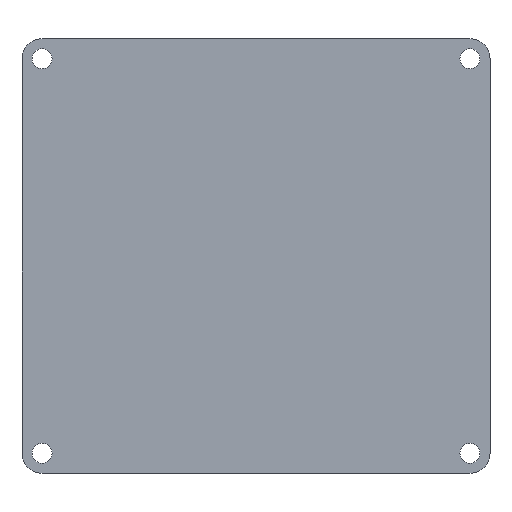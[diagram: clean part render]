
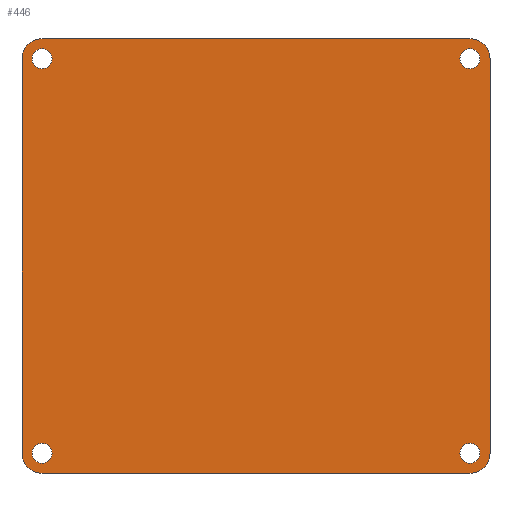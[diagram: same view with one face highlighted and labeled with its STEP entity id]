
A CAD part, top view. The second image highlights one B-rep face of the part: STEP entity #446.
In plain terms, the highlighted planar face has unit normal (0, 0, 1).
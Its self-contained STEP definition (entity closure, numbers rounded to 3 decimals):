
#32=CARTESIAN_POINT('',(69.985,2.978,38.));
#33=VERTEX_POINT('',#32);
#34=CARTESIAN_POINT('',(69.985,61.978,38.));
#35=VERTEX_POINT('',#34);
#36=CARTESIAN_POINT('',(69.985,2.978,38.));
#37=DIRECTION('',(-0.,1.,0.));
#38=VECTOR('',#37,59.);
#39=LINE('',#36,#38);
#40=EDGE_CURVE('',#33,#35,#39,.T.);
#82=CARTESIAN_POINT('',(2.985,64.978,38.));
#83=VERTEX_POINT('',#82);
#90=CARTESIAN_POINT('',(66.985,64.978,38.));
#91=VERTEX_POINT('',#90);
#92=CARTESIAN_POINT('',(66.985,64.978,38.));
#93=DIRECTION('',(-1.,-0.,0.));
#94=VECTOR('',#93,64.);
#95=LINE('',#92,#94);
#96=EDGE_CURVE('',#91,#83,#95,.T.);
#122=CARTESIAN_POINT('',(-0.015,2.978,38.));
#123=VERTEX_POINT('',#122);
#130=CARTESIAN_POINT('',(-0.015,61.978,38.));
#131=VERTEX_POINT('',#130);
#132=CARTESIAN_POINT('',(-0.015,61.978,38.));
#133=DIRECTION('',(-0.,-1.,0.));
#134=VECTOR('',#133,59.);
#135=LINE('',#132,#134);
#136=EDGE_CURVE('',#131,#123,#135,.T.);
#154=CARTESIAN_POINT('',(66.985,1.478,38.));
#155=VERTEX_POINT('',#154);
#179=CARTESIAN_POINT('',(66.985,4.478,38.));
#180=VERTEX_POINT('',#179);
#181=CARTESIAN_POINT('',(66.985,2.978,38.));
#182=DIRECTION('',(0.,-0.,1.));
#183=DIRECTION('',(0.,1.,0.));
#184=AXIS2_PLACEMENT_3D('',#181,#182,#183);
#185=CIRCLE('',#184,1.5);
#186=EDGE_CURVE('',#155,#180,#185,.T.);
#188=CARTESIAN_POINT('',(66.985,2.978,38.));
#189=DIRECTION('',(0.,-0.,1.));
#190=DIRECTION('',(0.,1.,0.));
#191=AXIS2_PLACEMENT_3D('',#188,#189,#190);
#192=CIRCLE('',#191,1.5);
#193=EDGE_CURVE('',#180,#155,#192,.T.);
#205=CARTESIAN_POINT('',(2.985,1.478,38.));
#206=VERTEX_POINT('',#205);
#230=CARTESIAN_POINT('',(2.985,4.478,38.));
#231=VERTEX_POINT('',#230);
#232=CARTESIAN_POINT('',(2.985,2.978,38.));
#233=DIRECTION('',(0.,-0.,1.));
#234=DIRECTION('',(0.,1.,0.));
#235=AXIS2_PLACEMENT_3D('',#232,#233,#234);
#236=CIRCLE('',#235,1.5);
#237=EDGE_CURVE('',#206,#231,#236,.T.);
#239=CARTESIAN_POINT('',(2.985,2.978,38.));
#240=DIRECTION('',(0.,-0.,1.));
#241=DIRECTION('',(0.,1.,0.));
#242=AXIS2_PLACEMENT_3D('',#239,#240,#241);
#243=CIRCLE('',#242,1.5);
#244=EDGE_CURVE('',#231,#206,#243,.T.);
#256=CARTESIAN_POINT('',(66.985,60.478,38.));
#257=VERTEX_POINT('',#256);
#281=CARTESIAN_POINT('',(66.985,63.478,38.));
#282=VERTEX_POINT('',#281);
#283=CARTESIAN_POINT('',(66.985,61.978,38.));
#284=DIRECTION('',(0.,-0.,1.));
#285=DIRECTION('',(0.,1.,0.));
#286=AXIS2_PLACEMENT_3D('',#283,#284,#285);
#287=CIRCLE('',#286,1.5);
#288=EDGE_CURVE('',#257,#282,#287,.T.);
#290=CARTESIAN_POINT('',(66.985,61.978,38.));
#291=DIRECTION('',(0.,-0.,1.));
#292=DIRECTION('',(0.,1.,0.));
#293=AXIS2_PLACEMENT_3D('',#290,#291,#292);
#294=CIRCLE('',#293,1.5);
#295=EDGE_CURVE('',#282,#257,#294,.T.);
#307=CARTESIAN_POINT('',(2.985,60.478,38.));
#308=VERTEX_POINT('',#307);
#332=CARTESIAN_POINT('',(2.985,63.478,38.));
#333=VERTEX_POINT('',#332);
#334=CARTESIAN_POINT('',(2.985,61.978,38.));
#335=DIRECTION('',(0.,-0.,1.));
#336=DIRECTION('',(0.,1.,0.));
#337=AXIS2_PLACEMENT_3D('',#334,#335,#336);
#338=CIRCLE('',#337,1.5);
#339=EDGE_CURVE('',#308,#333,#338,.T.);
#341=CARTESIAN_POINT('',(2.985,61.978,38.));
#342=DIRECTION('',(0.,-0.,1.));
#343=DIRECTION('',(0.,1.,0.));
#344=AXIS2_PLACEMENT_3D('',#341,#342,#343);
#345=CIRCLE('',#344,1.5);
#346=EDGE_CURVE('',#333,#308,#345,.T.);
#356=CARTESIAN_POINT('',(2.985,-0.022,38.));
#357=VERTEX_POINT('',#356);
#358=CARTESIAN_POINT('',(66.985,-0.022,38.));
#359=VERTEX_POINT('',#358);
#360=CARTESIAN_POINT('',(2.985,-0.022,38.));
#361=DIRECTION('',(1.,0.,0.));
#362=VECTOR('',#361,64.);
#363=LINE('',#360,#362);
#364=EDGE_CURVE('',#357,#359,#363,.T.);
#391=CARTESIAN_POINT('',(147.985,-2.022,38.));
#392=DIRECTION('',(0.,0.,1.));
#393=DIRECTION('',(0.,1.,0.));
#394=AXIS2_PLACEMENT_3D('',#391,#392,#393);
#395=PLANE('',#394);
#396=ORIENTED_EDGE('',*,*,#339,.F.);
#397=ORIENTED_EDGE('',*,*,#346,.F.);
#398=EDGE_LOOP('',(#396,#397));
#399=FACE_BOUND('',#398,.T.);
#400=ORIENTED_EDGE('',*,*,#288,.F.);
#401=ORIENTED_EDGE('',*,*,#295,.F.);
#402=EDGE_LOOP('',(#400,#401));
#403=FACE_BOUND('',#402,.T.);
#404=ORIENTED_EDGE('',*,*,#237,.F.);
#405=ORIENTED_EDGE('',*,*,#244,.F.);
#406=EDGE_LOOP('',(#404,#405));
#407=FACE_BOUND('',#406,.T.);
#408=ORIENTED_EDGE('',*,*,#186,.F.);
#409=ORIENTED_EDGE('',*,*,#193,.F.);
#410=EDGE_LOOP('',(#408,#409));
#411=FACE_BOUND('',#410,.T.);
#412=ORIENTED_EDGE('',*,*,#136,.T.);
#413=CARTESIAN_POINT('',(2.985,2.978,38.));
#414=DIRECTION('',(0.,-0.,1.));
#415=DIRECTION('',(0.,1.,0.));
#416=AXIS2_PLACEMENT_3D('',#413,#414,#415);
#417=CIRCLE('',#416,3.);
#418=EDGE_CURVE('',#123,#357,#417,.T.);
#419=ORIENTED_EDGE('',*,*,#418,.T.);
#420=ORIENTED_EDGE('',*,*,#364,.T.);
#421=CARTESIAN_POINT('',(66.985,2.978,38.));
#422=DIRECTION('',(0.,-0.,1.));
#423=DIRECTION('',(0.,1.,0.));
#424=AXIS2_PLACEMENT_3D('',#421,#422,#423);
#425=CIRCLE('',#424,3.);
#426=EDGE_CURVE('',#359,#33,#425,.T.);
#427=ORIENTED_EDGE('',*,*,#426,.T.);
#428=ORIENTED_EDGE('',*,*,#40,.T.);
#429=CARTESIAN_POINT('',(66.985,61.978,38.));
#430=DIRECTION('',(0.,-0.,1.));
#431=DIRECTION('',(0.,1.,0.));
#432=AXIS2_PLACEMENT_3D('',#429,#430,#431);
#433=CIRCLE('',#432,3.);
#434=EDGE_CURVE('',#35,#91,#433,.T.);
#435=ORIENTED_EDGE('',*,*,#434,.T.);
#436=ORIENTED_EDGE('',*,*,#96,.T.);
#437=CARTESIAN_POINT('',(2.985,61.978,38.));
#438=DIRECTION('',(0.,-0.,1.));
#439=DIRECTION('',(0.,1.,0.));
#440=AXIS2_PLACEMENT_3D('',#437,#438,#439);
#441=CIRCLE('',#440,3.);
#442=EDGE_CURVE('',#83,#131,#441,.T.);
#443=ORIENTED_EDGE('',*,*,#442,.T.);
#444=EDGE_LOOP('',(#412,#419,#420,#427,#428,#435,#436,#443));
#445=FACE_BOUND('',#444,.T.);
#446=ADVANCED_FACE('',(#399,#403,#407,#411,#445),#395,.T.);
